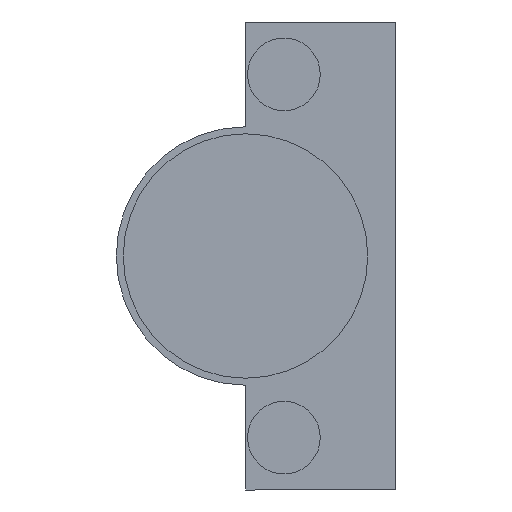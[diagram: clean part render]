
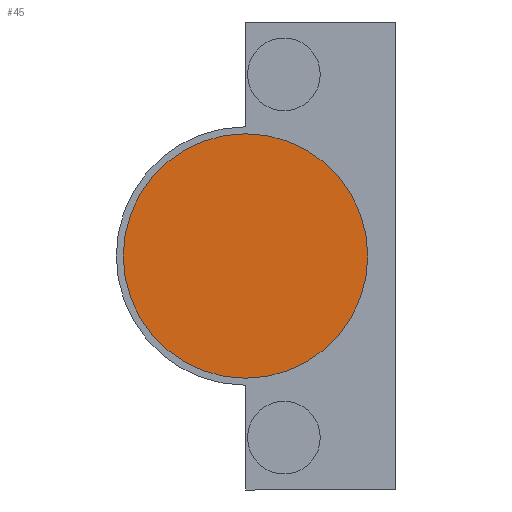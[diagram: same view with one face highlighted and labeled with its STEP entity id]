
A CAD part, front view. The second image highlights one B-rep face of the part: STEP entity #45.
In plain terms, the highlighted planar face has unit normal (0, -1, 0).
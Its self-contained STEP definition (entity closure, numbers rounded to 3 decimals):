
#45 = ADVANCED_FACE ( 'NONE', ( #1024 ), #225, .T. ) ;
#224 = CARTESIAN_POINT ( 'NONE',  ( 2.5, -12.6, 0. ) ) ;
#225 = PLANE ( 'NONE',  #1382 ) ;
#227 = DIRECTION ( 'NONE',  ( 0., -1., 0. ) ) ;
#228 = DIRECTION ( 'NONE',  ( 1., 0., 0. ) ) ;
#354 = CARTESIAN_POINT ( 'NONE',  ( 2.5, -12.6, 0. ) ) ;
#355 = DIRECTION ( 'NONE',  ( 0., -1., 0. ) ) ;
#356 = DIRECTION ( 'NONE',  ( 1., 0., 0. ) ) ;
#527 = CARTESIAN_POINT ( 'NONE',  ( 2.5, -12.6, 0. ) ) ;
#551 = DIRECTION ( 'NONE',  ( 0., -1., 0. ) ) ;
#552 = DIRECTION ( 'NONE',  ( 1., 0., 0. ) ) ;
#560 = CARTESIAN_POINT ( 'NONE',  ( 20., -12.6, 0. ) ) ;
#567 = CARTESIAN_POINT ( 'NONE',  ( -15., -12.6, 0. ) ) ;
#775 = ORIENTED_EDGE ( 'NONE', *, *, #1311, .T. ) ;
#776 = ORIENTED_EDGE ( 'NONE', *, *, #1456, .T. ) ;
#956 = EDGE_LOOP ( 'NONE', ( #776, #775 ) ) ;
#1024 = FACE_OUTER_BOUND ( 'NONE', #956, .T. ) ;
#1111 = CIRCLE ( 'NONE', #1395, 17.5 ) ;
#1257 = CIRCLE ( 'NONE', #1410, 17.5 ) ;
#1311 = EDGE_CURVE ( 'NONE', #1502, #1509, #1111, .T. ) ;
#1382 = AXIS2_PLACEMENT_3D ( 'NONE', #224, #227, #228 ) ;
#1395 = AXIS2_PLACEMENT_3D ( 'NONE', #354, #355, #356 ) ;
#1410 = AXIS2_PLACEMENT_3D ( 'NONE', #527, #551, #552 ) ;
#1456 = EDGE_CURVE ( 'NONE', #1509, #1502, #1257, .T. ) ;
#1502 = VERTEX_POINT ( 'NONE', #560 ) ;
#1509 = VERTEX_POINT ( 'NONE', #567 ) ;
